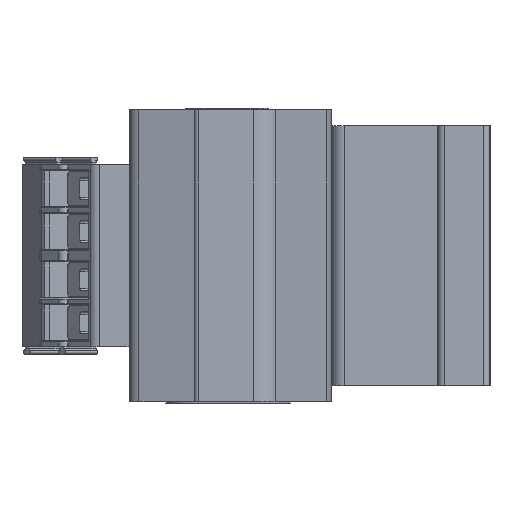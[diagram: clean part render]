
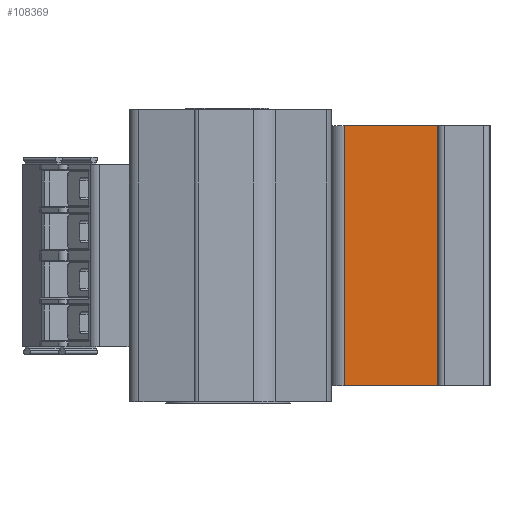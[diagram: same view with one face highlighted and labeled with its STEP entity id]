
A CAD part, left-side view. The second image highlights one B-rep face of the part: STEP entity #108369.
In plain terms, the highlighted planar face has unit normal (-1, 0, 0).
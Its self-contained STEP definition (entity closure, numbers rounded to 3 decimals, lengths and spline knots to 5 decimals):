
#7293=PLANE('',#115089);
#12499=FACE_OUTER_BOUND('',#18260,.T.);
#18260=EDGE_LOOP('',(#97602,#97603,#97604,#97605));
#31045=LINE('',#171914,#43961);
#31055=LINE('',#171952,#43971);
#31068=LINE('',#171994,#43984);
#31154=LINE('',#172207,#44070);
#43961=VECTOR('',#141029,0.7874);
#43971=VECTOR('',#141071,0.7874);
#43984=VECTOR('',#141106,0.38189);
#44070=VECTOR('',#141292,0.38189);
#53853=VERTEX_POINT('',#171911);
#53854=VERTEX_POINT('',#171913);
#53865=VERTEX_POINT('',#171950);
#53866=VERTEX_POINT('',#171951);
#68398=EDGE_CURVE('',#53854,#53853,#31045,.T.);
#68415=EDGE_CURVE('',#53865,#53866,#31055,.T.);
#68436=EDGE_CURVE('',#53866,#53853,#31068,.T.);
#68545=EDGE_CURVE('',#53865,#53854,#31154,.T.);
#97602=ORIENTED_EDGE('',*,*,#68415,.F.);
#97603=ORIENTED_EDGE('',*,*,#68545,.T.);
#97604=ORIENTED_EDGE('',*,*,#68398,.T.);
#97605=ORIENTED_EDGE('',*,*,#68436,.F.);
#108369=ADVANCED_FACE('',(#12499),#7293,.F.);
#115089=AXIS2_PLACEMENT_3D('',#172206,#141290,#141291);
#141029=DIRECTION('',(0.,0.,-1.));
#141071=DIRECTION('',(0.,0.,-1.));
#141106=DIRECTION('',(0.,1.,0.));
#141290=DIRECTION('center_axis',(1.,0.,0.));
#141291=DIRECTION('ref_axis',(0.,0.,
-1.));
#141292=DIRECTION('',(0.,1.,0.));
#171911=CARTESIAN_POINT('',(-1.27141,-0.53359,-0.39409));
#171913=CARTESIAN_POINT('',(-1.27141,-0.53359,0.39331));
#171914=CARTESIAN_POINT('',(-1.27141,-0.53359,0.39331));
#171950=CARTESIAN_POINT('',(-1.27141,-0.91548,0.39331));
#171951=CARTESIAN_POINT('',(-1.27141,-0.91548,-0.39409));
#171952=CARTESIAN_POINT('',(-1.27141,-0.91548,0.39331));
#171994=CARTESIAN_POINT('',(-1.27141,-0.91548,-0.39409));
#172206=CARTESIAN_POINT('Origin',(-1.27141,-0.85446,
0.07835));
#172207=CARTESIAN_POINT('',(-1.27141,-0.91548,0.39331));
